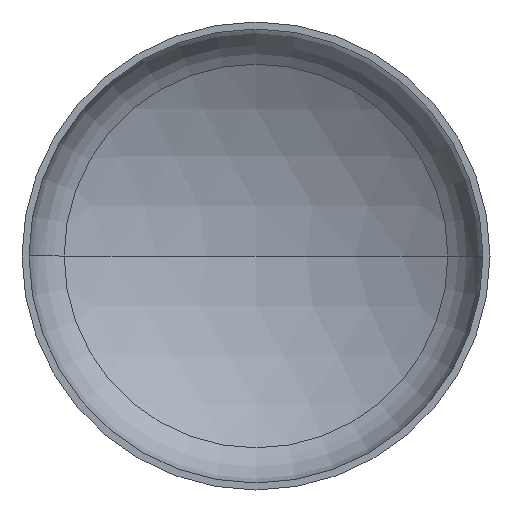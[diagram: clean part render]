
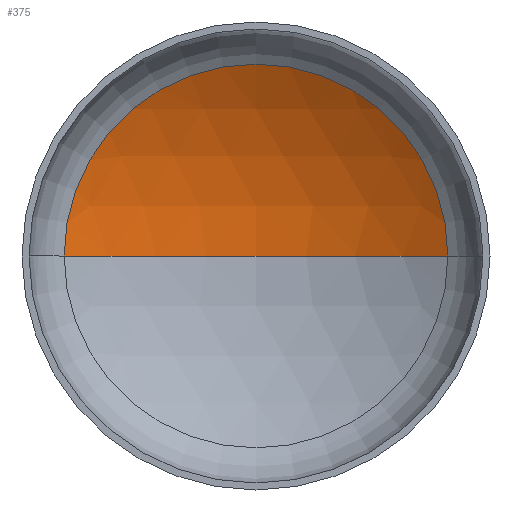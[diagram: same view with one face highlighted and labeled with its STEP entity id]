
A CAD part, front view. The second image highlights one B-rep face of the part: STEP entity #375.
In plain terms, the highlighted spherical face has radius 2080 mm.
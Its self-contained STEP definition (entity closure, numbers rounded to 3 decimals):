
#4 = DIRECTION ( 'NONE',  ( 1., 0., 0. ) ) ;
#7 = ORIENTED_EDGE ( 'NONE', *, *, #153, .T. ) ;
#8 = DIRECTION ( 'NONE',  ( -1., 0., 0. ) ) ;
#12 = EDGE_LOOP ( 'NONE', ( #75, #15, #7 ) ) ;
#15 = ORIENTED_EDGE ( 'NONE', *, *, #154, .T. ) ;
#16 = AXIS2_PLACEMENT_3D ( 'NONE', #361, #83, #115 ) ;
#18 = DIRECTION ( 'NONE',  ( 0., 0., -1. ) ) ;
#21 = CARTESIAN_POINT ( 'NONE',  ( 0., -1322.595, 0. ) ) ;
#54 = VERTEX_POINT ( 'NONE', #257 ) ;
#66 = VERTEX_POINT ( 'NONE', #253 ) ;
#75 = ORIENTED_EDGE ( 'NONE', *, *, #157, .F. ) ;
#83 = DIRECTION ( 'NONE',  ( 0., 0., -1. ) ) ;
#86 = AXIS2_PLACEMENT_3D ( 'NONE', #174, #311, #336 ) ;
#88 = AXIS2_PLACEMENT_3D ( 'NONE', #21, #18, #8 ) ;
#89 = VERTEX_POINT ( 'NONE', #239 ) ;
#92 = AXIS2_PLACEMENT_3D ( 'NONE', #401, #268, #4 ) ;
#115 = DIRECTION ( 'NONE',  ( -1., 0., 0. ) ) ;
#153 = EDGE_CURVE ( 'NONE', #89, #54, #341, .T. ) ;
#154 = EDGE_CURVE ( 'NONE', #66, #89, #277, .T. ) ;
#157 = EDGE_CURVE ( 'NONE', #66, #54, #159, .T. ) ;
#159 = CIRCLE ( 'NONE', #86, 2080. ) ;
#174 = CARTESIAN_POINT ( 'NONE',  ( 0., -1322.595, 0. ) ) ;
#176 = FACE_OUTER_BOUND ( 'NONE', #12, .T. ) ;
#236 = SPHERICAL_SURFACE ( 'NONE', #16, 2080. ) ;
#239 = CARTESIAN_POINT ( 'NONE',  ( 1066., 463.475, 0. ) ) ;
#253 = CARTESIAN_POINT ( 'NONE',  ( 0., 757.405, 0. ) ) ;
#257 = CARTESIAN_POINT ( 'NONE',  ( -1066., 463.475, 0. ) ) ;
#268 = DIRECTION ( 'NONE',  ( 0., -1., 0. ) ) ;
#277 = CIRCLE ( 'NONE', #88, 2080. ) ;
#311 = DIRECTION ( 'NONE',  ( 0., 0., 1. ) ) ;
#336 = DIRECTION ( 'NONE',  ( 1., 0., 0. ) ) ;
#341 = CIRCLE ( 'NONE', #92, 1066. ) ;
#361 = CARTESIAN_POINT ( 'NONE',  ( 0., -1322.595, 0. ) ) ;
#375 = ADVANCED_FACE ( 'NONE', ( #176 ), #236, .F. ) ;
#401 = CARTESIAN_POINT ( 'NONE',  ( 0., 463.475, 0. ) ) ;
